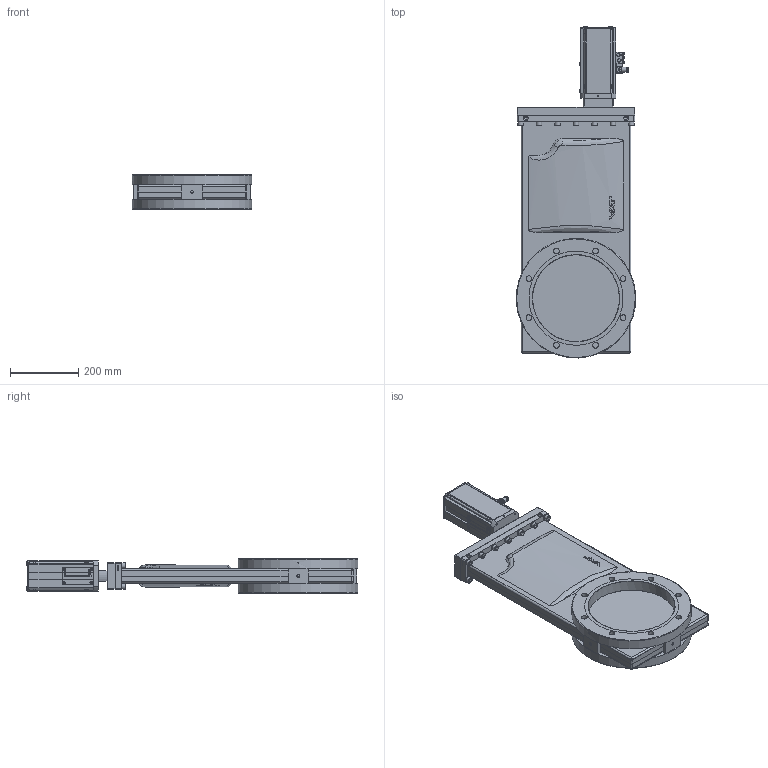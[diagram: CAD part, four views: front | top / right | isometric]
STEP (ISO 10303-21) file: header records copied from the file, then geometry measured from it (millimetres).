
FILE_DESCRIPTION(/* description */ (''),/* implementation_level */ '2;1');
FILE_NAME(/* name */ '1033438440_203.stp',/* time_stamp */ '2015-02-06T13:27:14+01:00',/* author */ (''),/* organization */ (''),/* preprocessor_version */ 'ST-DEVELOPER v11',/* originating_system */ 'SIEMENS PLM Software NX 7.5',/* authorisation */ '');
FILE_SCHEMA (('AP203_CONFIGURATION_CONTROLLED_3D_DESIGN_OF_MECHANICAL_PARTS_AND_ASSEMBLIES_MIM_LF'));
Length unit declared in the file: millimetre
Products named in the file (36): 65664-01.2_20691ID; 436171; 467882; 437235; N-6024-538.1; 497026; N-6024-571.1; 85949-01.1; 72770-01.4; 209489_1.1; 243231.2_20572ID; 243231.2_20649ID; 77900.1; 74628-01.3; 89473-01.1; 82418-01.1; N-7557-016_1.1; N-7557-018.1; N-7557-016_2.1; N-6024-524.1; N-5018-005.1; 775041; 77876-01.1; 77858-01.1; 65313-01.1; N-5019-840.1; n-6134-410; 497027; 94225-01.1; 94238-R1.4; 210260.1; 474636; 90208-r1; N-7557-016_3.1_MODELNX-ARRAGMNTArrangement 1; 94800-r1.7_NX-ARRAGMNTKONFIG1; 776319
Assembly tree (80 placements, depth 4):
  776319
    94800-r1.7_NX-ARRAGMNTKONFIG1
      N-5018-005.1  x2
      N-6024-524.1  x6
      N-7557-016_2.1
      N-7557-018.1
      N-7557-016_1.1
      N-7557-016_3.1_MODELNX-ARRAGMNTArrangement 1
        437235
        467882
    90208-r1
      82418-01.1
      89473-01.1
      74628-01.3
    n-6134-410  x14
    N-5019-840.1  x14
    65313-01.1
    474636
      77900.1  x3
      210260.1
        436171  x2
        209489_1.1
      243231.2_20649ID
      243231.2_20572ID
      209489_1.1
    77858-01.1
    77876-01.1
    94238-R1.4
      72770-01.4  x4
      85949-01.1
      N-6024-571.1  x4
      94225-01.1
        65664-01.2_20691ID
    775041
    497027
      497026
      N-6024-538.1  x4
Bounding box: 350 x 970.88 x 99.75 mm (x, y, z)
Volume: 7489168 mm3; surface area: 1783717.9 mm2
Topology: 99 solids, 99 shells, 1877 faces, 4623 edges, 3071 vertices
Faces by surface type: plane 1175, cylinder 488, cone 105, extrusion 31, torus 31, sphere 29, bspline 18
Full cylindrical faces by diameter (mm): 0.5 x1, 2.125 x1, 2.5 x2, 2.65 x1, 3 x10, 3.2 x2, 3.3 x4, 3.4 x4, 3.5 x3, 3.65 x2, 4 x6, 4.2 x4, 4.22 x1, 4.3 x3, 4.31 x4, 4.35 x2, 4.5 x2, 4.625 x2, 5 x11, 5.5 x1, 5.9 x1, 6 x19, 6.25 x2, 6.6 x4, 7 x1, 7.05 x1, 7.982 x4, 8 x4, 8.36 x14, 8.4 x14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
Entity records: 47974 total; most frequent: CARTESIAN_POINT 10871, ORIENTED_EDGE 5644, DIRECTION 5546, EDGE_CURVE 2822, AXIS2_PLACEMENT_3D 2066, VERTEX_POINT 2059, EDGE_LOOP 1752, VECTOR 1414
